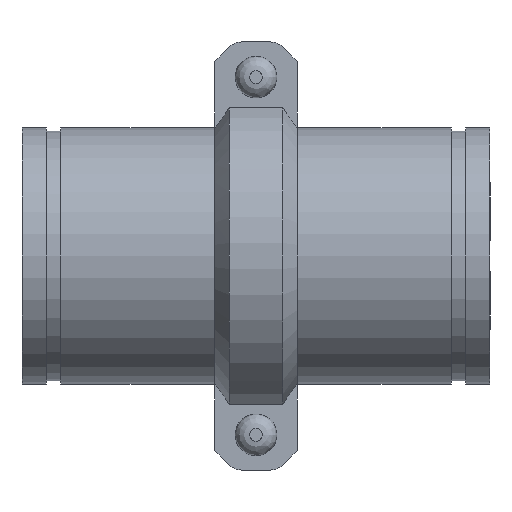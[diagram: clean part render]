
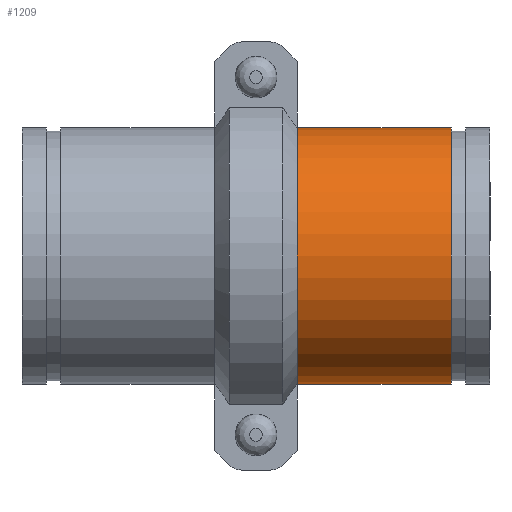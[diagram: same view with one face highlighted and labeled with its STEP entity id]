
A CAD part, front view. The second image highlights one B-rep face of the part: STEP entity #1209.
In plain terms, the highlighted cylindrical face has radius 84.138 mm (diameter 168.275 mm), a full revolution.
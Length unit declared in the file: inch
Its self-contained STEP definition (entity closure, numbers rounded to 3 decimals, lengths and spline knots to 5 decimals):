
#48=LINE('',#1911,#135);
#135=VECTOR('',#1552,3.3125);
#222=CYLINDRICAL_SURFACE('',#1377,3.3125);
#267=FACE_OUTER_BOUND('',#340,.T.);
#340=EDGE_LOOP('',(#797,#798,#799,#800,#801,#802));
#432=CIRCLE('',#1375,3.3125);
#433=CIRCLE('',#1376,3.3125);
#434=CIRCLE('',#1378,3.3125);
#435=CIRCLE('',#1379,3.3125);
#500=VERTEX_POINT('',#1902);
#501=VERTEX_POINT('',#1903);
#502=VERTEX_POINT('',#1907);
#503=VERTEX_POINT('',#1908);
#617=EDGE_CURVE('',#500,#501,#432,.T.);
#618=EDGE_CURVE('',#501,#500,#433,.T.);
#619=EDGE_CURVE('',#502,#503,#434,.T.);
#620=EDGE_CURVE('',#503,#502,#435,.T.);
#621=EDGE_CURVE('',#503,#501,#48,.T.);
#797=ORIENTED_EDGE('',*,*,#619,.F.);
#798=ORIENTED_EDGE('',*,*,#620,.F.);
#799=ORIENTED_EDGE('',*,*,#621,.T.);
#800=ORIENTED_EDGE('',*,*,#618,.T.);
#801=ORIENTED_EDGE('',*,*,#617,.T.);
#802=ORIENTED_EDGE('',*,*,#621,.F.);
#1209=ADVANCED_FACE('',(#267),#222,.T.);
#1375=AXIS2_PLACEMENT_3D('',#1904,#1542,#1543);
#1376=AXIS2_PLACEMENT_3D('',#1905,#1544,#1545);
#1377=AXIS2_PLACEMENT_3D('',#1906,#1546,#1547);
#1378=AXIS2_PLACEMENT_3D('',#1909,#1548,#1549);
#1379=AXIS2_PLACEMENT_3D('',#1910,#1550,#1551);
#1542=DIRECTION('center_axis',(-1.,0.,0.));
#1543=DIRECTION('ref_axis',(0.,0.,1.));
#1544=DIRECTION('center_axis',(-1.,0.,0.));
#1545=DIRECTION('ref_axis',(0.,0.,1.));
#1546=DIRECTION('center_axis',(-1.,0.,0.));
#1547=DIRECTION('ref_axis',(0.,1.,0.));
#1548=DIRECTION('center_axis',(-1.,0.,0.));
#1549=DIRECTION('ref_axis',(0.,0.,1.));
#1550=DIRECTION('center_axis',(-1.,0.,0.));
#1551=DIRECTION('ref_axis',(0.,0.,1.));
#1552=DIRECTION('',(1.,0.,0.));
#1902=CARTESIAN_POINT('',(2.,3.3125,0.));
#1903=CARTESIAN_POINT('',(2.,-3.3125,0.));
#1904=CARTESIAN_POINT('Origin',(2.,0.,0.));
#1905=CARTESIAN_POINT('Origin',(2.,0.,0.));
#1906=CARTESIAN_POINT('Origin',(0.,0.,
0.));
#1907=CARTESIAN_POINT('',(-2.,3.3125,0.));
#1908=CARTESIAN_POINT('',(-2.,-3.3125,0.));
#1909=CARTESIAN_POINT('Origin',(-2.,0.,0.));
#1910=CARTESIAN_POINT('Origin',(-2.,0.,0.));
#1911=CARTESIAN_POINT('',(0.,-3.3125,0.));
